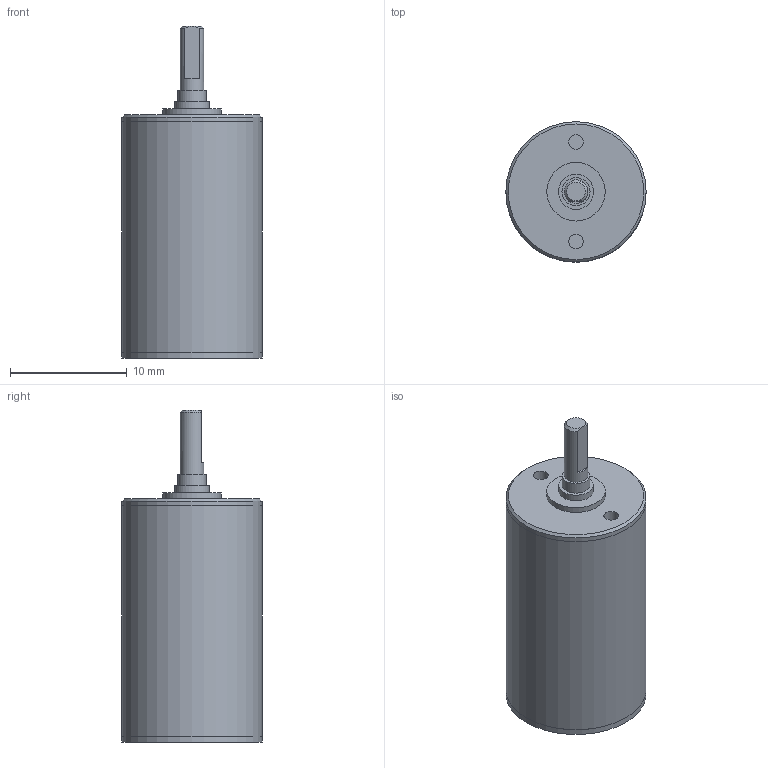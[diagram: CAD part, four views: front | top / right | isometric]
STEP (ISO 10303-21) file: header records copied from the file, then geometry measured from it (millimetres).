
FILE_DESCRIPTION(/* description */ (''),/* implementation_level */ '2;1');
FILE_NAME(/* name */ '12-5_6.stp',/* time_stamp */ '2016-08-24T11:34:25+02:00',/* author */ ('DR. FRITZ FAULHABER GmbH & Co. KG'),/* organization */ ('DR. FRITZ FAULHABER GmbH & Co. KG'),/* preprocessor_version */ 'ST-DEVELOPER v16',/* originating_system */ 'SIEMENS PLM Software NX 10.0',/* authorisation */ '');
FILE_SCHEMA (('AUTOMOTIVE_DESIGN { 1 0 10303 214 3 1 1 1 }'));
Length unit declared in the file: millimetre
Products named in the file (1): H00000605_A
Bounding box: 12 x 12 x 28.4 mm (x, y, z)
Volume: 2308.8 mm3; surface area: 1148.4 mm2
Topology: 1 solids, 1 shells, 35 faces, 58 edges, 38 vertices
Faces by surface type: plane 17, cylinder 15, cone 3
Full cylindrical faces by diameter (mm): 1.25 x2, 2 x1, 2.4 x1, 2.48 x1, 2.6 x1, 3 x1, 5 x2, 6 x1, 11.99 x2, 12 x3
Entity records: 749 total; most frequent: DIRECTION 141, CARTESIAN_POINT 121, ORIENTED_EDGE 76, AXIS2_PLACEMENT_3D 69, EDGE_LOOP 65, FACE_BOUND 58, EDGE_CURVE 38, ADVANCED_FACE 35
